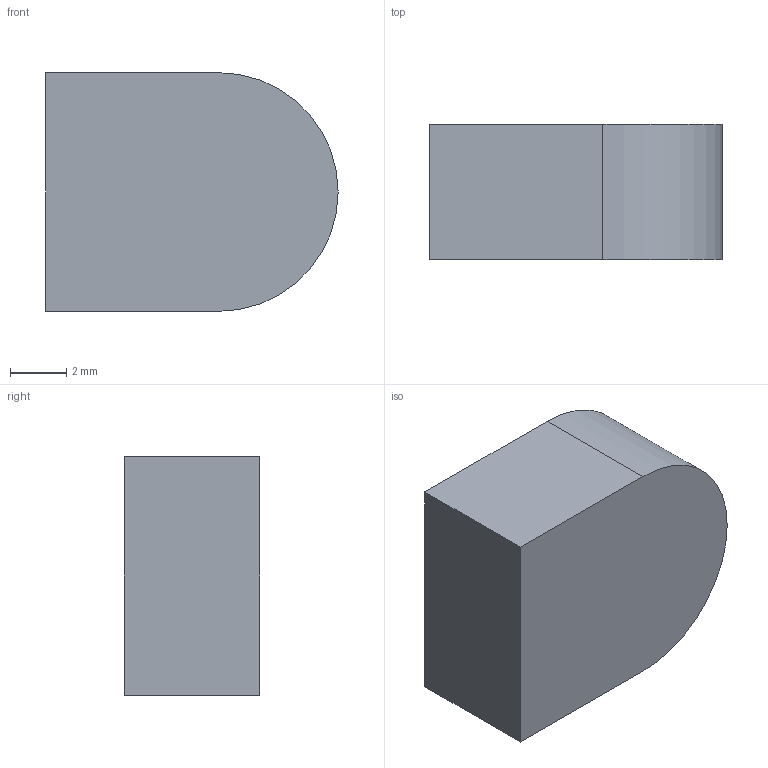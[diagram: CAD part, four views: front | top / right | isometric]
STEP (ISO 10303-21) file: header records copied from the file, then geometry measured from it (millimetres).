
FILE_DESCRIPTION (( 'STEP AP203' ), '1' );
FILE_NAME ('Corner_Pad_Insert.STEP', '2026-07-26T18:25:07', ( '' ), ( '' ), 'SwSTEP 2.0', 'SolidWorks 2024', '' );
FILE_SCHEMA (( 'CONFIG_CONTROL_DESIGN' ));
Length unit declared in the file: inch
Products named in the file (1): Corner_Pad_Insert
Bounding box: 10.43 x 4.83 x 8.51 mm (x, y, z)
Volume: 327.6 mm3; surface area: 383.8 mm2
Topology: 1 solids, 1 shells, 9 faces, 18 edges, 12 vertices
Faces by surface type: plane 6, cylinder 3
Entity records: 317 total; most frequent: DIRECTION 44, CARTESIAN_POINT 40, ORIENTED_EDGE 36, EDGE_CURVE 18, AXIS2_PLACEMENT_3D 16, LINE 12, VERTEX_POINT 12, VECTOR 12
